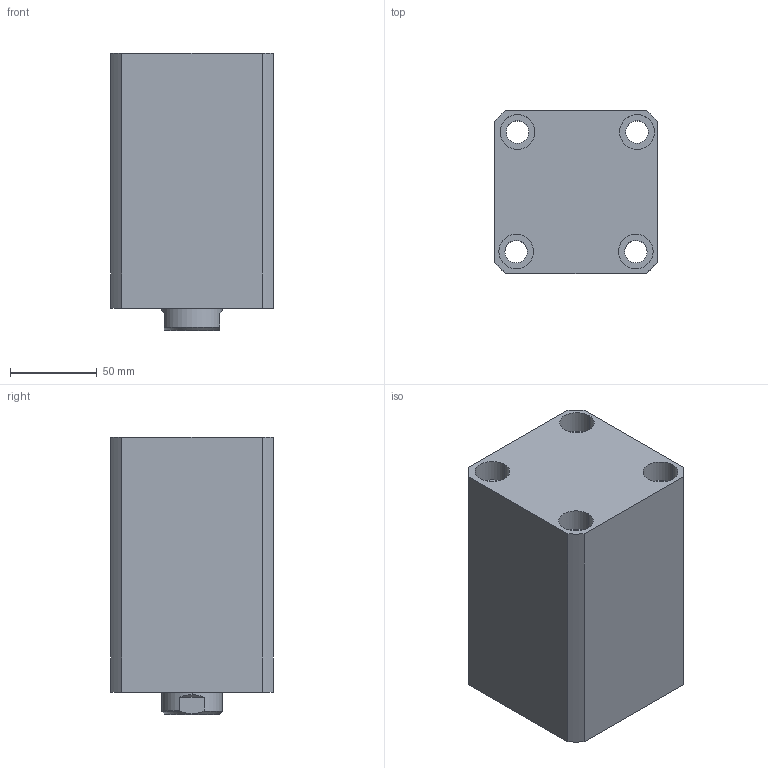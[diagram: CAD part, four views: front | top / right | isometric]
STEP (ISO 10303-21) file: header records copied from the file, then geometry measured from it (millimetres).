
FILE_DESCRIPTION (( 'STEP AP214' ), '1' );
FILE_NAME ('chtb-sdma63x80n_asm.STEP', '2018-05-16T02:44:53', ( 'Windows' ), ( 'Microsoft' ), 'SwSTEP 2.0', 'SolidWorks 2015', '' );
FILE_SCHEMA (( 'AUTOMOTIVE_DESIGN' ));
Length unit declared in the file: millimetre
Products named in the file (4): CHTB-SDMA63X80NBT; CHTB63X80NHSG; CHTB-63QG; chtb-sdma63x80n_asm
Assembly tree (3 placements, depth 2):
  chtb-sdma63x80n_asm
    CHTB-63QG
    CHTB63X80NHSG
    CHTB-SDMA63X80NBT
Bounding box: 94 x 94 x 160 mm (x, y, z)
Volume: 1016948.1 mm3; surface area: 171025.6 mm2
Topology: 3 solids, 3 shells, 165 faces, 472 edges, 321 vertices
Faces by surface type: cylinder 107, plane 31, bspline 12, cone 8, torus 7
Entity records: 17727 total; most frequent: CARTESIAN_POINT 13576, ORIENTED_EDGE 932, DIRECTION 716, EDGE_CURVE 466, VERTEX_POINT 321, AXIS2_PLACEMENT_3D 288, EDGE_LOOP 197, FACE_OUTER_BOUND 165
